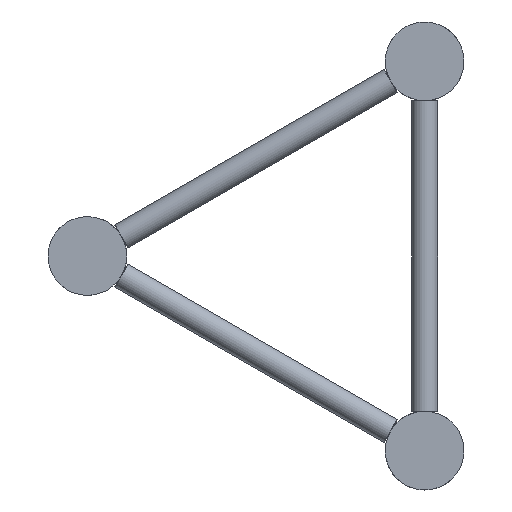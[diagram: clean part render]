
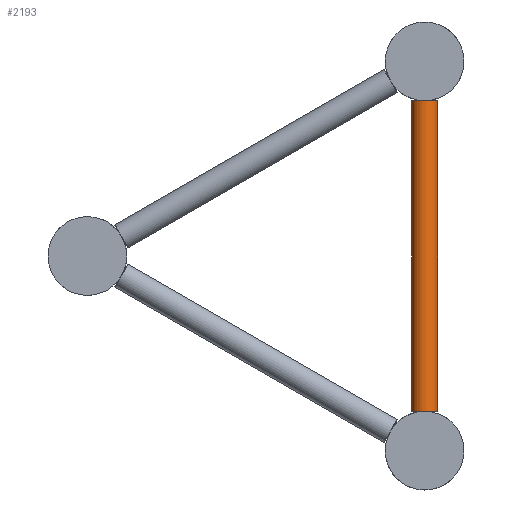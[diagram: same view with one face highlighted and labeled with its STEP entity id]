
A CAD part, left-side view. The second image highlights one B-rep face of the part: STEP entity #2193.
In plain terms, the highlighted cylindrical face has radius 8 mm (diameter 16 mm), a full revolution.
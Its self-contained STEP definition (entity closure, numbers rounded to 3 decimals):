
#79=CIRCLE('',#2518,8.);
#88=CIRCLE('',#2536,8.);
#89=CIRCLE('',#2538,8.);
#90=CIRCLE('',#2540,8.);
#219=FACE_BOUND('',#721,.T.);
#306=CYLINDRICAL_SURFACE('',#2539,8.);
#458=FACE_OUTER_BOUND('',#720,.T.);
#720=EDGE_LOOP('',(#1501,#1502));
#721=EDGE_LOOP('',(#1503,#1504));
#1039=VERTEX_POINT('',#3677);
#1040=VERTEX_POINT('',#3678);
#1051=VERTEX_POINT('',#3704);
#1052=VERTEX_POINT('',#3705);
#1207=EDGE_CURVE('',#1040,#1039,#79,.T.);
#1220=EDGE_CURVE('',#1052,#1051,#88,.T.);
#1221=EDGE_CURVE('',#1051,#1052,#89,.T.);
#1222=EDGE_CURVE('',#1039,#1040,#90,.T.);
#1501=ORIENTED_EDGE('',*,*,#1220,.T.);
#1502=ORIENTED_EDGE('',*,*,#1221,.T.);
#1503=ORIENTED_EDGE('',*,*,#1207,.T.);
#1504=ORIENTED_EDGE('',*,*,#1222,.T.);
#2193=ADVANCED_FACE('',(#458,#219),#306,.T.);
#2518=AXIS2_PLACEMENT_3D('',#3684,#3067,#3068);
#2536=AXIS2_PLACEMENT_3D('',#3718,#3107,#3108);
#2538=AXIS2_PLACEMENT_3D('',#3720,#3111,#3112);
#2539=AXIS2_PLACEMENT_3D('',#3721,#3113,#3114);
#2540=AXIS2_PLACEMENT_3D('',#3722,#3115,#3116);
#3067=DIRECTION('center_axis',(0.,0.,
-1.));
#3068=DIRECTION('ref_axis',(-1.,0.,0.));
#3107=DIRECTION('center_axis',(0.,0.,
1.));
#3108=DIRECTION('ref_axis',(-1.,0.,0.));
#3111=DIRECTION('center_axis',(0.,0.,
1.));
#3112=DIRECTION('ref_axis',(-1.,0.,0.));
#3113=DIRECTION('center_axis',(0.,0.,
1.));
#3114=DIRECTION('ref_axis',(-1.,0.,0.));
#3115=DIRECTION('center_axis',(0.,0.,
-1.));
#3116=DIRECTION('ref_axis',(-1.,0.,0.));
#3677=CARTESIAN_POINT('',(52.,0.,-24.15));
#3678=CARTESIAN_POINT('',(68.,0.,-24.15));
#3684=CARTESIAN_POINT('Origin',(60.,0.,-24.15));
#3704=CARTESIAN_POINT('',(52.,0.,-214.85));
#3705=CARTESIAN_POINT('',(68.,0.,-214.85));
#3718=CARTESIAN_POINT('Origin',(60.,0.,-214.85));
#3720=CARTESIAN_POINT('Origin',(60.,0.,-214.85));
#3721=CARTESIAN_POINT('Origin',(60.,0.,-119.5));
#3722=CARTESIAN_POINT('Origin',(60.,0.,-24.15));
